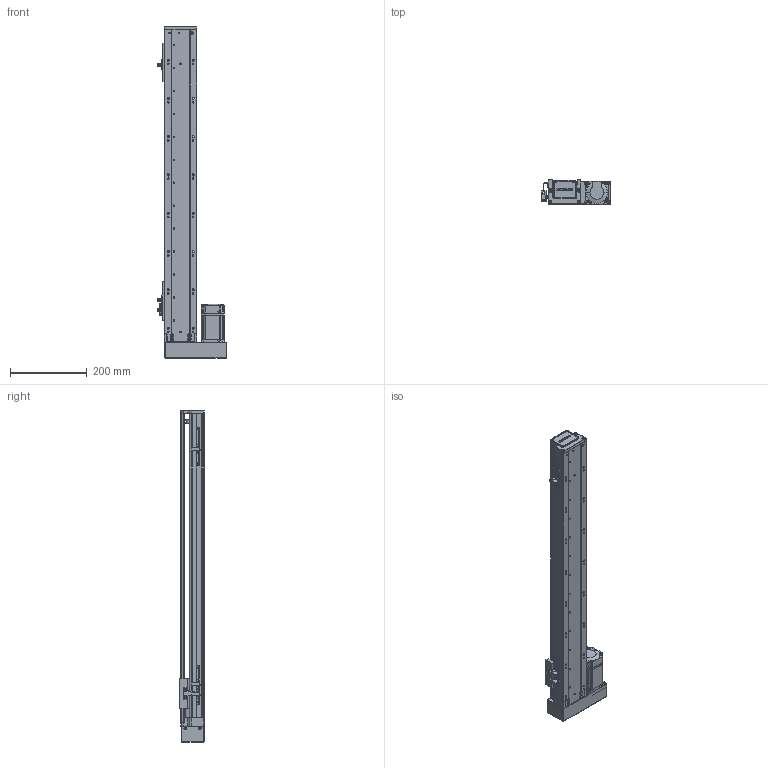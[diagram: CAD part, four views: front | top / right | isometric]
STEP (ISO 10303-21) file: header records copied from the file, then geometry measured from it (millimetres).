
FILE_DESCRIPTION (( 'STEP AP203' ), '1' );
FILE_NAME ('RY80-L1620-300-LK.SLDASM_650.step', '2021-02-20T07:17:04', ( '盈信电脑' ), ( '东莞市道滘镇水果街19号' ), 'SwSTEP 2.0', 'SolidWorks 2012', '' );
FILE_SCHEMA (( 'CONFIG_CONTROL_DESIGN' ));
Products named in the file (15): RY80-L1620-300-LK.SLDASM_650; T倰羞; 覜茼ん672; 滅袉蝶18-24; RY80俋离覜茼え; RY80酘莞萇儂假蚾啣; RY80酘殏俋欶; RY80转接电机端支撑座; 侂狟200W萇儂; 1; RY80臏賑輸; RY80-300蛌諉倰第奻裔啣-LK_650; RY80綴裔啣; 滅袉蝶18-10; RY80-300蛌諉倰第菁釱-LK_650
Assembly tree (17 placements, depth 3):
  RY80-L1620-300-LK.SLDASM_650
    RY80-300蛌諉倰第菁釱-LK_650
    RY80臏賑輸
    RY80-300蛌諉倰第奻裔啣-LK_650
    RY80綴裔啣
    滅袉蝶18-10
    RY80转接电机端支撑座
    侂狟200W萇儂
      1
    RY80酘莞萇儂假蚾啣
    RY80酘殏俋欶
    覜茼ん672  x3
    T倰羞  x2
    RY80俋离覜茼え
    滅袉蝶18-24
Bounding box: 181.7 x 65 x 867 mm (x, y, z)
Volume: 1689416.6 mm3; surface area: 669707.9 mm2
Topology: 16 solids, 16 shells, 2228 faces, 6151 edges, 3985 vertices
Faces by surface type: plane 1187, cylinder 839, cone 140, bspline 62
Entity records: 71415 total; most frequent: CARTESIAN_POINT 18567, ORIENTED_EDGE 10990, DIRECTION 10172, EDGE_CURVE 5495, VERTEX_POINT 3601, AXIS2_PLACEMENT_3D 3414, LINE 3344, VECTOR 3344
